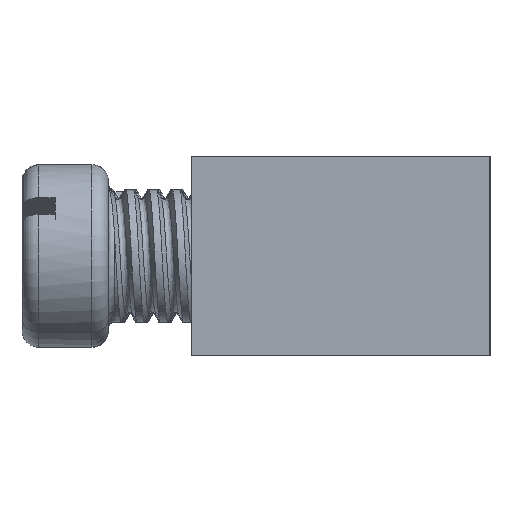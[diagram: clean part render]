
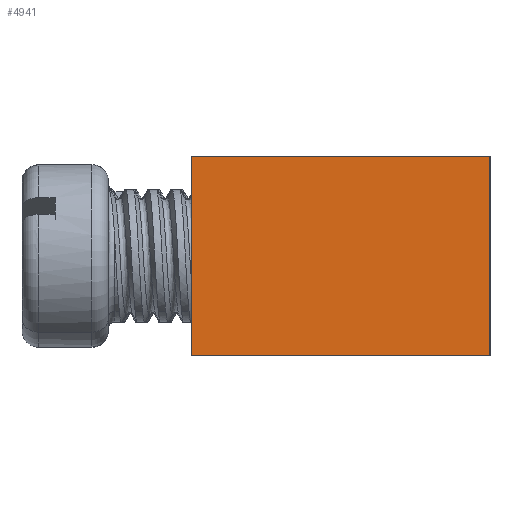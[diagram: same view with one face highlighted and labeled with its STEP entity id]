
A CAD part, left-side view. The second image highlights one B-rep face of the part: STEP entity #4941.
In plain terms, the highlighted planar face has unit normal (-1, 0, 0).
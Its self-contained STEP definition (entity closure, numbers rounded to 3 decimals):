
#84 = DIRECTION ( 'NONE',  ( 0., 0., 1. ) ) ;
#134 = EDGE_LOOP ( 'NONE', ( #7226, #2498, #1648, #1444 ) ) ;
#549 = FACE_OUTER_BOUND ( 'NONE', #134, .T. ) ;
#978 = VECTOR ( 'NONE', #4943, 1000. ) ;
#1171 = LINE ( 'NONE', #3730, #978 ) ;
#1308 = DIRECTION ( 'NONE',  ( 0., -1., 0. ) ) ;
#1444 = ORIENTED_EDGE ( 'NONE', *, *, #6799, .T. ) ;
#1648 = ORIENTED_EDGE ( 'NONE', *, *, #6111, .T. ) ;
#2272 = LINE ( 'NONE', #4289, #5354 ) ;
#2498 = ORIENTED_EDGE ( 'NONE', *, *, #5412, .F. ) ;
#2768 = CARTESIAN_POINT ( 'NONE',  ( 0., 9., 0. ) ) ;
#3154 = PLANE ( 'NONE',  #7515 ) ;
#3411 = CARTESIAN_POINT ( 'NONE',  ( 0., 9., -6. ) ) ;
#3458 = DIRECTION ( 'NONE',  ( 0., -1., 0. ) ) ;
#3730 = CARTESIAN_POINT ( 'NONE',  ( 0., 0., -6. ) ) ;
#3772 = DIRECTION ( 'NONE',  ( -1., 0., 0. ) ) ;
#4289 = CARTESIAN_POINT ( 'NONE',  ( 0., 9., -6. ) ) ;
#4322 = LINE ( 'NONE', #5028, #7198 ) ;
#4743 = VERTEX_POINT ( 'NONE', #5237 ) ;
#4941 = ADVANCED_FACE ( 'NONE', ( #549 ), #3154, .T. ) ;
#4943 = DIRECTION ( 'NONE',  ( 0., 0., 1. ) ) ;
#5028 = CARTESIAN_POINT ( 'NONE',  ( 0., 0., -6. ) ) ;
#5186 = EDGE_CURVE ( 'NONE', #7692, #7493, #6255, .T. ) ;
#5237 = CARTESIAN_POINT ( 'NONE',  ( 0., 0., -6. ) ) ;
#5354 = VECTOR ( 'NONE', #7356, 1000. ) ;
#5412 = EDGE_CURVE ( 'NONE', #6370, #7692, #2272, .T. ) ;
#6111 = EDGE_CURVE ( 'NONE', #6370, #4743, #4322, .T. ) ;
#6255 = LINE ( 'NONE', #6534, #6464 ) ;
#6370 = VERTEX_POINT ( 'NONE', #3411 ) ;
#6464 = VECTOR ( 'NONE', #3458, 1000. ) ;
#6534 = CARTESIAN_POINT ( 'NONE',  ( 0., 0., 0. ) ) ;
#6799 = EDGE_CURVE ( 'NONE', #4743, #7493, #1171, .T. ) ;
#6923 = CARTESIAN_POINT ( 'NONE',  ( 0., 0., 0. ) ) ;
#7198 = VECTOR ( 'NONE', #1308, 1000. ) ;
#7226 = ORIENTED_EDGE ( 'NONE', *, *, #5186, .F. ) ;
#7356 = DIRECTION ( 'NONE',  ( 0., 0., 1. ) ) ;
#7460 = CARTESIAN_POINT ( 'NONE',  ( 0., 0., -6. ) ) ;
#7493 = VERTEX_POINT ( 'NONE', #6923 ) ;
#7515 = AXIS2_PLACEMENT_3D ( 'NONE', #7460, #3772, #84 ) ;
#7692 = VERTEX_POINT ( 'NONE', #2768 ) ;
